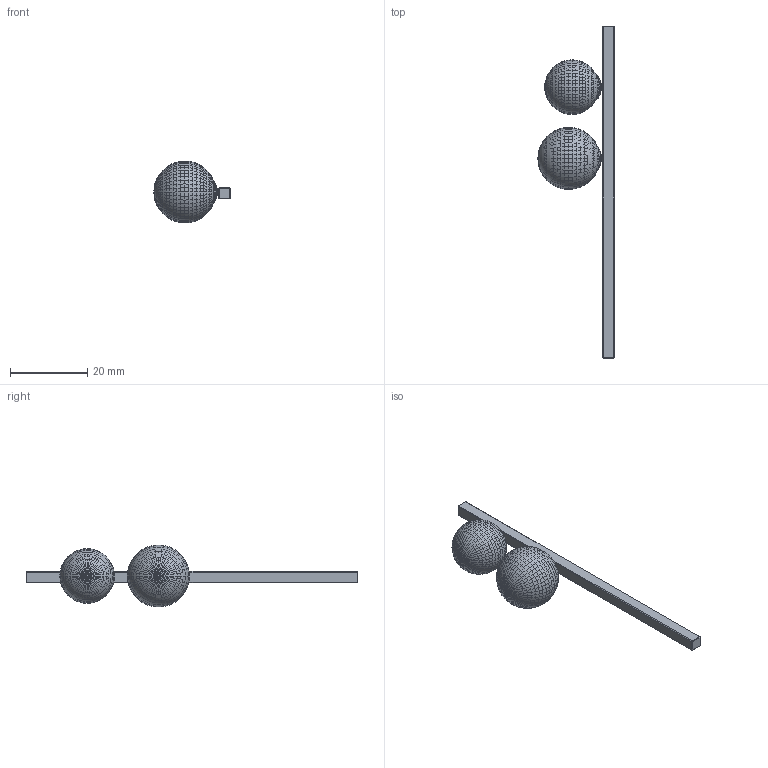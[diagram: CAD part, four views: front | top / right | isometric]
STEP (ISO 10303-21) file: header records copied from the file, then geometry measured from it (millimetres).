
FILE_DESCRIPTION(/* description */ (''),/* implementation_level */ '2;1');
FILE_NAME(/* name */ '1099D1',/* time_stamp */ '2023-03-15T21:33:21+01:00',/* author */ (''),/* organization */ (''),/* preprocessor_version */ 'ST-DEVELOPER v16.5',/* originating_system */ 'Rhino 7.22',/* authorisation */ '');
FILE_SCHEMA (('AUTOMOTIVE_DESIGN'));
Products named in the file (1): Document
Bounding box: 19.73 x 86 x 16.06 mm (x, y, z)
Volume: 4426 mm3; surface area: 2591.9 mm2
Topology: 5 solids, 9 shells, 5202 faces, 10308 edges, 5118 vertices
Faces by surface type: plane 3977, bspline 1225
Entity records: 109565 total; most frequent: CARTESIAN_POINT 34614, ORIENTED_EDGE 20328, EDGE_CURVE 10308, B_SPLINE_CURVE_WITH_KNOTS 10308, ADVANCED_FACE 5202, FACE_OUTER_BOUND 5202, EDGE_LOOP 5202, VERTEX_POINT 5118
